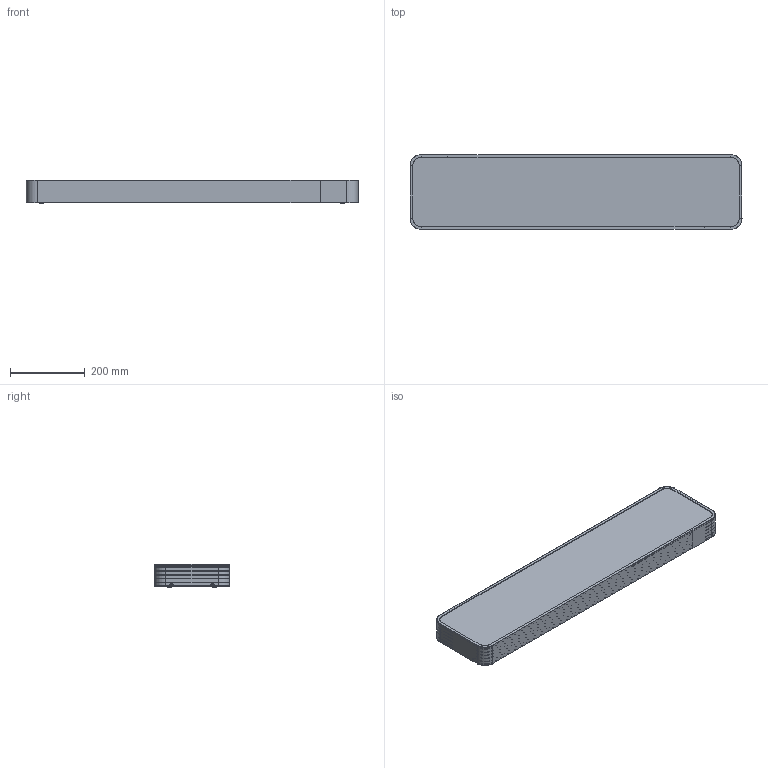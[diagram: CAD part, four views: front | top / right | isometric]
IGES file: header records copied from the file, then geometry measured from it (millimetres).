
Start section: SolidWorks IGES file using analytic representation for surfaces
Global section: file name: \\DC2003\projekty\soft\Profil 3D\Gotowe softy\SOFT 900X200_plafon.IGS; native system: SolidWorks 2016; preprocessor: SolidWorks 2016; author: Asia; date: 160711.122522; units: millimetre
Bounding box: 889 x 200 x 61.8 mm (x, y, z)
Surface area: 1586456.5 mm2 (no closed solid volume)
Topology: 0 solids, 0 shells, 4742 faces, 39896 edges, 39872 vertices
Faces by surface type: bspline 3538, revolution 1204
